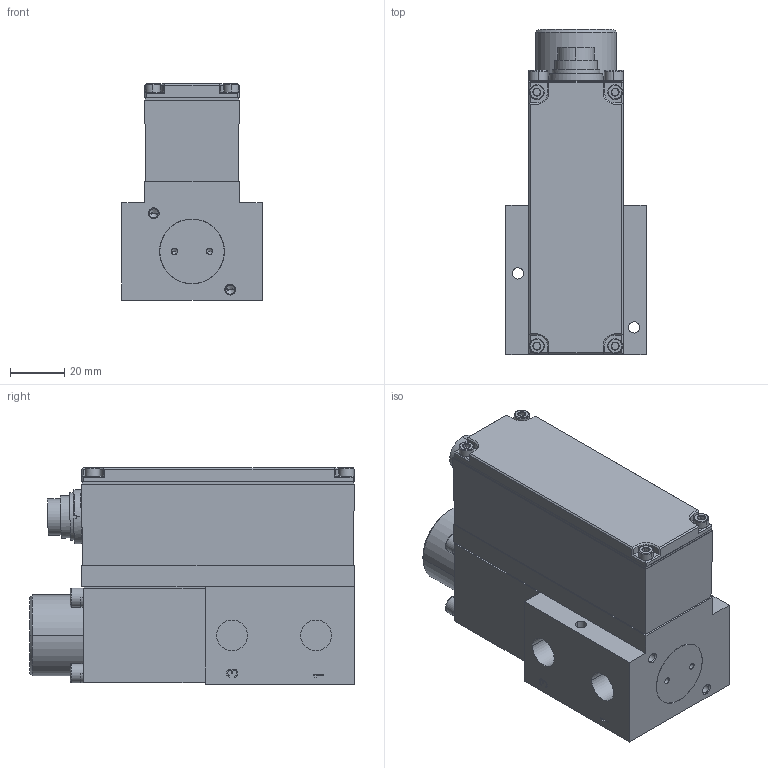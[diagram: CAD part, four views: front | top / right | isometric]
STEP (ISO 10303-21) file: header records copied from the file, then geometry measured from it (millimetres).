
FILE_DESCRIPTION((''),'2;1');
FILE_NAME('833-354H0105H_SW0003','2014-07-25T',('WenzS'),('ASCO Numatics'),'PRO/ENGINEER BY PARAMETRIC TECHNOLOGY CORPORATION, 2010480','PRO/ENGINEER BY PARAMETRIC TECHNOLOGY CORPORATION, 2010480','');
FILE_SCHEMA(('CONFIG_CONTROL_DESIGN'));
Length unit declared in the file: millimetre
Products named in the file (1): 833-354H0105H_SW0003
Bounding box: 52 x 120.3 x 80 mm (x, y, z)
Volume: 325126.2 mm3; surface area: 38193.2 mm2
Topology: 1 solids, 1 shells, 449 faces, 1109 edges, 690 vertices
Faces by surface type: plane 291, cylinder 75, cone 67, torus 16
Entity records: 13826 total; most frequent: CARTESIAN_POINT 3078, DIRECTION 2222, ORIENTED_EDGE 2202, EDGE_CURVE 1101, VECTOR 798, LINE 798, AXIS2_PLACEMENT_3D 712, VERTEX_POINT 690
